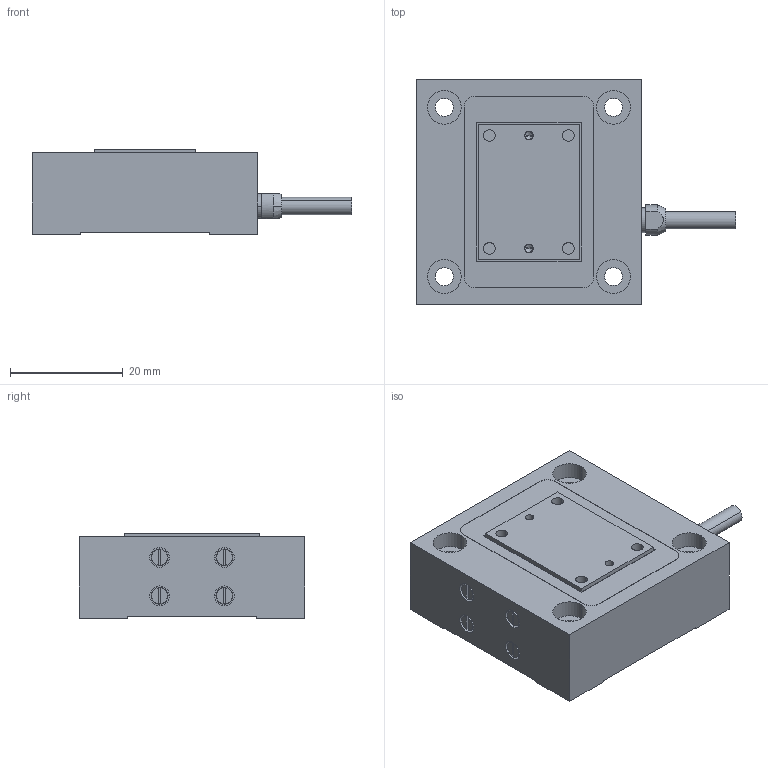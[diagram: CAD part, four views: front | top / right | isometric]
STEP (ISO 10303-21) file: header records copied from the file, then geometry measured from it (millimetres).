
FILE_DESCRIPTION (( 'STEP AP203' ), '1' );
FILE_NAME ('P-621.1xx.STEP', '2014-02-12T12:59:35', ( 'test' ), ( '' ), 'SwSTEP 2.0', 'SolidWorks 2012', '' );
FILE_SCHEMA (( 'CONFIG_CONTROL_DESIGN' ));
Length unit declared in the file: millimetre
Products named in the file (1): P-621.1xx
Bounding box: 56.7 x 40 x 15 mm (x, y, z)
Volume: 22091 mm3; surface area: 11459.9 mm2
Topology: 17 solids, 17 shells, 478 faces, 1135 edges, 689 vertices
Faces by surface type: cylinder 162, plane 154, cone 114, torus 48
Entity records: 14509 total; most frequent: CARTESIAN_POINT 3257, DIRECTION 2506, ORIENTED_EDGE 2198, EDGE_CURVE 1099, AXIS2_PLACEMENT_3D 1010, VERTEX_POINT 689, EDGE_LOOP 548, CIRCLE 531
